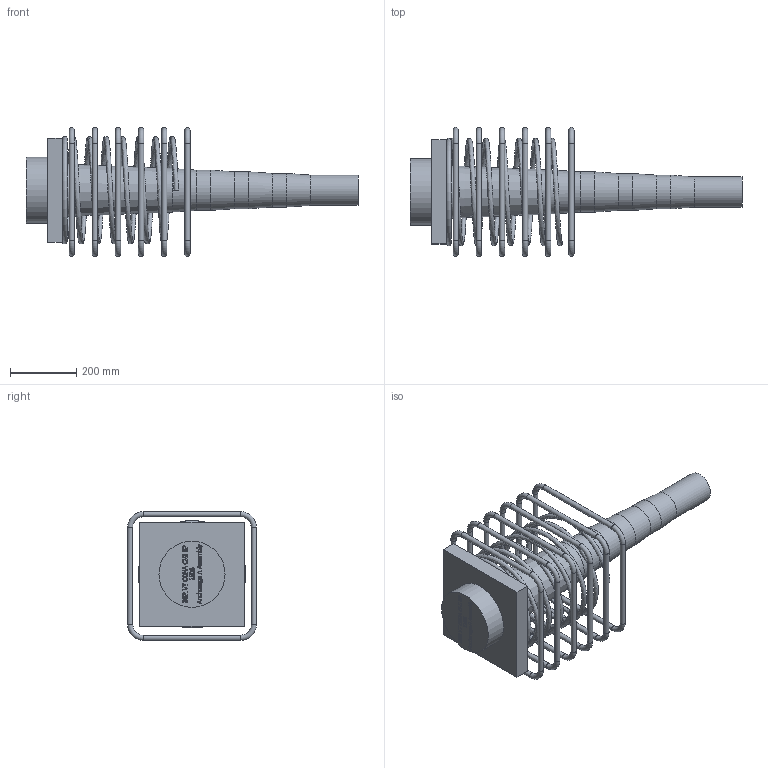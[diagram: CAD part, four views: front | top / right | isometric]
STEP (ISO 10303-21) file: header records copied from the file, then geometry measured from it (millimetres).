
FILE_DESCRIPTION(/* description */ (''),/* implementation_level */ '2;1');
FILE_NAME(/* name */ 'Z:\04 Publications\05 Give-out\BBR\6_3D_Models\BBR VT CONA CMI\BBR VT CONA CMI SP\01506\BBR VT CONA CMI SP 1506_Anchorage A Assembly_CS-34,28.stp',/* time_stamp */ '2017-05-05T15:35:41+02:00',/* author */ ('IP'),/* organization */ (''),/* preprocessor_version */ 'ST-DEVELOPER v16.1',/* originating_system */ 'Autodesk Inventor 2016',/* authorisation */ '');
FILE_SCHEMA (('AUTOMOTIVE_DESIGN { 1 0 10303 214 3 1 1 }'));
Length unit declared in the file: millimetre
Products named in the file (1): BBR VT CONA CMI SP 1506_Anchorage A Assembly_CS-34,28
Bounding box: 1004.1 x 390 x 390 mm (x, y, z)
Volume: 19958938.6 mm3; surface area: 1375515.4 mm2
Topology: 8 solids, 8 shells, 670 faces, 1779 edges, 1168 vertices
Faces by surface type: plane 315, bspline 296, torus 29, cylinder 29, cone 1
Full cylindrical faces by diameter (mm): 16 x24, 91.725 x1, 101.793 x1, 111.862 x1, 121.932 x1, 200 x1
Entity records: 25717 total; most frequent: CARTESIAN_POINT 10580, ORIENTED_EDGE 3442, DIRECTION 1944, EDGE_CURVE 1720, VERTEX_POINT 1167, LINE 1060, VECTOR 1060, EDGE_LOOP 786
